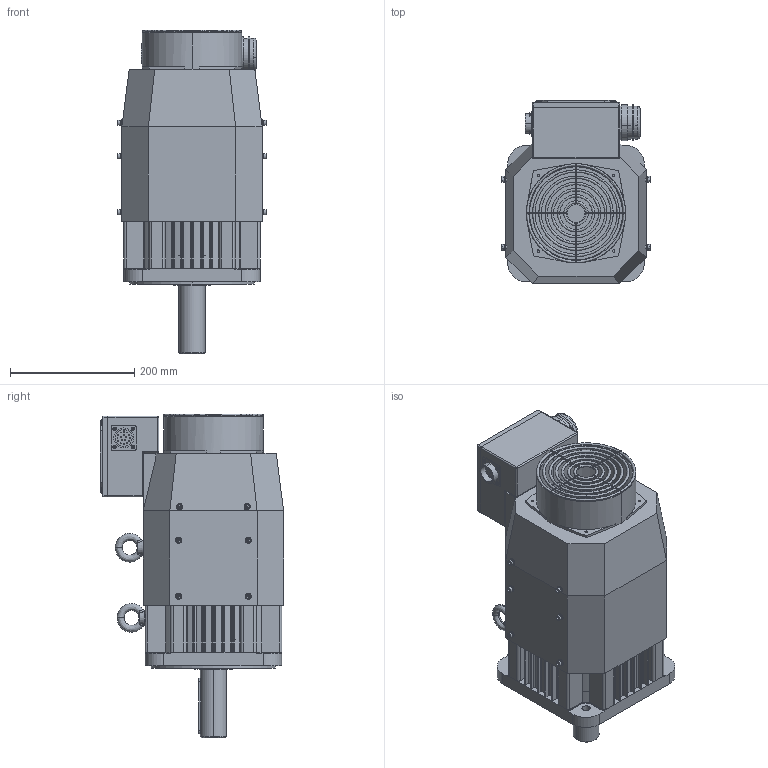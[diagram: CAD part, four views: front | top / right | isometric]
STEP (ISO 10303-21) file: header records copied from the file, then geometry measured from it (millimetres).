
FILE_DESCRIPTION (( 'STEP AP203' ), '1' );
FILE_NAME ('EMB-75D.STEP', '2020-04-17T06:36:37', ( '' ), ( '' ), 'SwSTEP 2.0', 'SolidWorks 2018', '' );
FILE_SCHEMA (( 'CONFIG_CONTROL_DESIGN' ));
Length unit declared in the file: millimetre
Products named in the file (1): EMB-75D
Bounding box: 240.6 x 295 x 521 mm (x, y, z)
Volume: 11926554.1 mm3; surface area: 1394375.6 mm2
Topology: 78 solids, 79 shells, 2035 faces, 4942 edges, 3082 vertices
Faces by surface type: plane 873, cylinder 766, cone 190, bspline 146, torus 52, sphere 8
Entity records: 66278 total; most frequent: CARTESIAN_POINT 18536, DIRECTION 10285, ORIENTED_EDGE 9652, EDGE_CURVE 4826, AXIS2_PLACEMENT_3D 3951, VERTEX_POINT 3082, LINE 2383, VECTOR 2383
